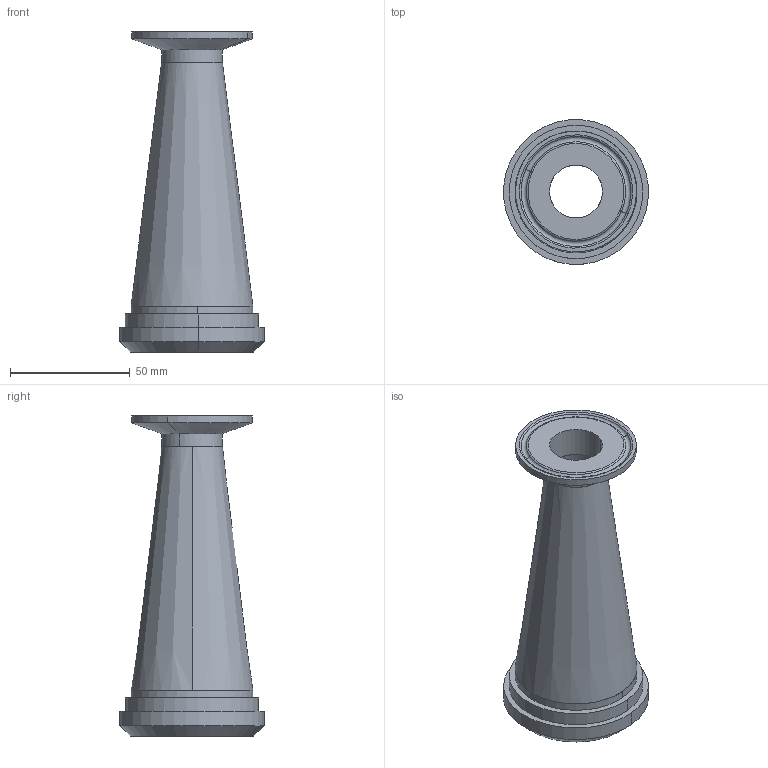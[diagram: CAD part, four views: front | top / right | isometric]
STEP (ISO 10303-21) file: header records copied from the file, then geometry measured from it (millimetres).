
FILE_DESCRIPTION (( 'STEP AP203' ), '1' );
FILE_NAME ('EG31PC 2.0X1.0.STEP', '2021-10-25T19:43:20', ( '' ), ( '' ), 'SwSTEP 2.0', 'SolidWorks 2021', '' );
FILE_SCHEMA (( 'CONFIG_CONTROL_DESIGN' ));
Length unit declared in the file: inch
Products named in the file (4): 14PR2.0; E31WW2.0X1.0; EG2CS1.0; EG31PC 2.0X1.0
Assembly tree (3 placements, depth 2):
  EG31PC 2.0X1.0
    E31WW2.0X1.0
    14PR2.0
    EG2CS1.0
Bounding box: 60.26 x 60.26 x 133.4 mm (x, y, z)
Volume: 41939.5 mm3; surface area: 37010.8 mm2
Topology: 3 solids, 3 shells, 37 faces, 74 edges, 46 vertices
Faces by surface type: cylinder 14, plane 9, cone 8, torus 6
Entity records: 1414 total; most frequent: DIRECTION 212, CARTESIAN_POINT 163, ORIENTED_EDGE 148, AXIS2_PLACEMENT_3D 95, EDGE_CURVE 74, CIRCLE 52, EDGE_LOOP 46, VERTEX_POINT 46
